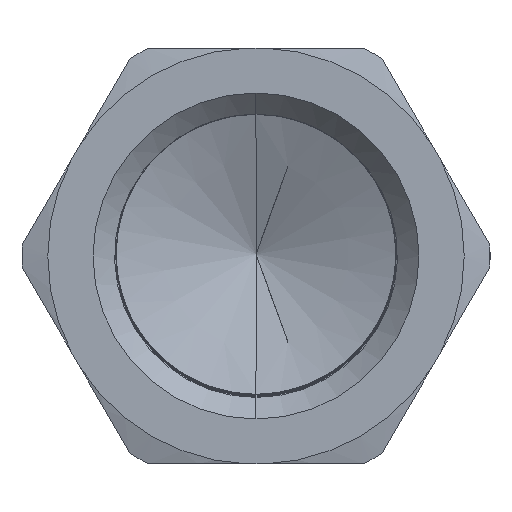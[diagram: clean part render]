
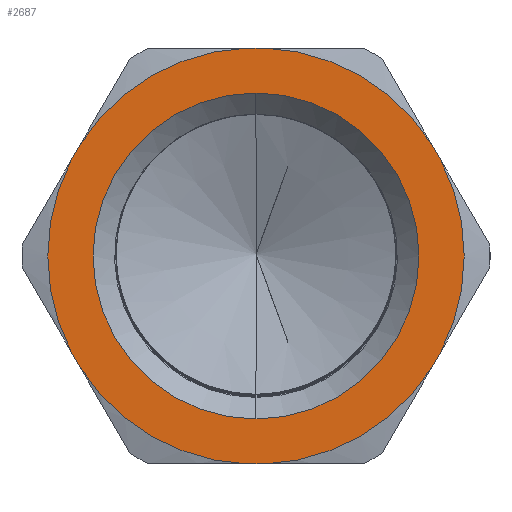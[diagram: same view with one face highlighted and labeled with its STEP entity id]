
A CAD part, left-side view. The second image highlights one B-rep face of the part: STEP entity #2687.
In plain terms, the highlighted planar face has unit normal (-1, 0, 0).
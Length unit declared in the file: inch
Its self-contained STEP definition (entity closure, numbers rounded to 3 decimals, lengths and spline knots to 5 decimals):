
#143 = EDGE_CURVE ( 'NONE', #16580, #16575, #11420, .T. ) ;
#173 = EDGE_CURVE ( 'NONE', #16395, #16539, #11452, .T. ) ;
#180 = EDGE_CURVE ( 'NONE', #16300, #16384, #11575, .T. ) ;
#187 = EDGE_CURVE ( 'NONE', #16386, #16295, #15654, .T. ) ;
#194 = EDGE_CURVE ( 'NONE', #16474, #16278, #15790, .T. ) ;
#265 = EDGE_CURVE ( 'NONE', #16289, #16446, #15623, .T. ) ;
#266 = EDGE_CURVE ( 'NONE', #16474, #16295, #9485, .T. ) ;
#267 = EDGE_CURVE ( 'NONE', #16289, #16278, #9492, .T. ) ;
#268 = EDGE_CURVE ( 'NONE', #16476, #16446, #9495, .T. ) ;
#269 = EDGE_CURVE ( 'NONE', #16476, #16438, #15673, .T. ) ;
#270 = EDGE_CURVE ( 'NONE', #16395, #16438, #9486, .T. ) ;
#271 = EDGE_CURVE ( 'NONE', #16300, #16539, #9504, .T. ) ;
#272 = EDGE_CURVE ( 'NONE', #16386, #16384, #9507, .T. ) ;
#1726 = CARTESIAN_POINT ( 'NONE',  ( 0., -0.02305, 0.531 ) ) ;
#1737 = CARTESIAN_POINT ( 'NONE',  ( 0., 0.02305, 0.531 ) ) ;
#1743 = CARTESIAN_POINT ( 'NONE',  ( 0., -0.47138, 0.24554 ) ) ;
#1748 = CARTESIAN_POINT ( 'NONE',  ( 0., -0.02305, -0.531 ) ) ;
#1832 = CARTESIAN_POINT ( 'NONE',  ( 0., -0.44834, -0.28546 ) ) ;
#1834 = CARTESIAN_POINT ( 'NONE',  ( 0., -0.47138, -0.24554 ) ) ;
#1843 = CARTESIAN_POINT ( 'NONE',  ( 0., 0.44834, -0.28546 ) ) ;
#1886 = CARTESIAN_POINT ( 'NONE',  ( 0., 0.47138, -0.24554 ) ) ;
#1894 = CARTESIAN_POINT ( 'NONE',  ( 0., 0.44834, 0.28546 ) ) ;
#1922 = CARTESIAN_POINT ( 'NONE',  ( 0., -0.44834, 0.28546 ) ) ;
#1924 = CARTESIAN_POINT ( 'NONE',  ( 0., 0.47138, 0.24554 ) ) ;
#1987 = CARTESIAN_POINT ( 'NONE',  ( 0., 0.02305, -0.531 ) ) ;
#2023 = CARTESIAN_POINT ( 'NONE',  ( 0., 0., -0.41613 ) ) ;
#2028 = CARTESIAN_POINT ( 'NONE',  ( 0., 0., 0.41613 ) ) ;
#2149 = ORIENTED_EDGE ( 'NONE', *, *, #194, .T. ) ;
#2154 = ORIENTED_EDGE ( 'NONE', *, *, #143, .F. ) ;
#2157 = ORIENTED_EDGE ( 'NONE', *, *, #265, .T. ) ;
#2159 = ORIENTED_EDGE ( 'NONE', *, *, #180, .T. ) ;
#2162 = ORIENTED_EDGE ( 'NONE', *, *, #270, .F. ) ;
#2164 = ORIENTED_EDGE ( 'NONE', *, *, #272, .F. ) ;
#2167 = ORIENTED_EDGE ( 'NONE', *, *, #187, .T. ) ;
#2168 = ORIENTED_EDGE ( 'NONE', *, *, #4304, .F. ) ;
#2169 = ORIENTED_EDGE ( 'NONE', *, *, #173, .T. ) ;
#2172 = ORIENTED_EDGE ( 'NONE', *, *, #266, .F. ) ;
#2173 = ORIENTED_EDGE ( 'NONE', *, *, #271, .F. ) ;
#2175 = ORIENTED_EDGE ( 'NONE', *, *, #268, .F. ) ;
#2179 = ORIENTED_EDGE ( 'NONE', *, *, #267, .F. ) ;
#2210 = ORIENTED_EDGE ( 'NONE', *, *, #269, .T. ) ;
#2687 = ADVANCED_FACE ( 'NONE', ( #6815, #6816 ), #6817, .F. ) ;
#2957 = AXIS2_PLACEMENT_3D ( 'NONE', #6812, #6819, #6820 ) ;
#4304 = EDGE_CURVE ( 'NONE', #16575, #16580, #11321, .T. ) ;
#6812 = CARTESIAN_POINT ( 'NONE',  ( 0., 0.61315, 0. ) ) ;
#6815 = FACE_OUTER_BOUND ( 'NONE', #13484, .T. ) ;
#6816 = FACE_BOUND ( 'NONE', #13486, .T. ) ;
#6817 = PLANE ( 'NONE',  #2957 ) ;
#6819 = DIRECTION ( 'NONE',  ( 1., 0., 0. ) ) ;
#6820 = DIRECTION ( 'NONE',  ( 0., 0., -1. ) ) ;
#8751 = CARTESIAN_POINT ( 'NONE',  ( 0., 0., 0. ) ) ;
#8752 = DIRECTION ( 'NONE',  ( -1., 0., 0. ) ) ;
#8753 = DIRECTION ( 'NONE',  ( 0., 0., 1. ) ) ;
#9193 = CARTESIAN_POINT ( 'NONE',  ( 0., 0., 0. ) ) ;
#9194 = DIRECTION ( 'NONE',  ( -1., 0., 0. ) ) ;
#9195 = DIRECTION ( 'NONE',  ( 0., 0., -1. ) ) ;
#9221 = CARTESIAN_POINT ( 'NONE',  ( 0., 0., 0. ) ) ;
#9222 = DIRECTION ( 'NONE',  ( -1., 0., 0. ) ) ;
#9224 = DIRECTION ( 'NONE',  ( 0., 0., -1. ) ) ;
#9248 = CARTESIAN_POINT ( 'NONE',  ( 0., 0., 0. ) ) ;
#9249 = DIRECTION ( 'NONE',  ( -1., 0., 0. ) ) ;
#9250 = DIRECTION ( 'NONE',  ( 0., 0., -1. ) ) ;
#9271 = CARTESIAN_POINT ( 'NONE',  ( 0., 0., 0. ) ) ;
#9272 = DIRECTION ( 'NONE',  ( -1., 0., 0. ) ) ;
#9273 = DIRECTION ( 'NONE',  ( 0., 0., -1. ) ) ;
#9482 = CARTESIAN_POINT ( 'NONE',  ( 0., -0.30657, 0.531 ) ) ;
#9485 = LINE ( 'NONE', #9482, #15666 ) ;
#9486 = LINE ( 'NONE', #9487, #15620 ) ;
#9487 = CARTESIAN_POINT ( 'NONE',  ( 0., 0.30657, -0.531 ) ) ;
#9488 = CARTESIAN_POINT ( 'NONE',  ( 0., 0., 0. ) ) ;
#9489 = DIRECTION ( 'NONE',  ( -1., 0., 0. ) ) ;
#9490 = DIRECTION ( 'NONE',  ( 0., 0., -1. ) ) ;
#9491 = DIRECTION ( 'NONE',  ( 0., -0.5, -0.866 ) ) ;
#9492 = LINE ( 'NONE', #9493, #15659 ) ;
#9493 = CARTESIAN_POINT ( 'NONE',  ( 0., 0.30657, 0.531 ) ) ;
#9494 = DIRECTION ( 'NONE',  ( 0., -1., 0. ) ) ;
#9495 = LINE ( 'NONE', #9496, #15651 ) ;
#9496 = CARTESIAN_POINT ( 'NONE',  ( 0., 0.61315, 0. ) ) ;
#9497 = DIRECTION ( 'NONE',  ( 0., -0.5, 0.866 ) ) ;
#9500 = CARTESIAN_POINT ( 'NONE',  ( 0., 0., 0. ) ) ;
#9501 = DIRECTION ( 'NONE',  ( -1., 0., 0. ) ) ;
#9502 = DIRECTION ( 'NONE',  ( 0., 0., -1. ) ) ;
#9503 = DIRECTION ( 'NONE',  ( 0., 0.5, 0.866 ) ) ;
#9504 = LINE ( 'NONE', #9505, #15706 ) ;
#9505 = CARTESIAN_POINT ( 'NONE',  ( 0., -0.30657, -0.531 ) ) ;
#9506 = DIRECTION ( 'NONE',  ( 0., 1., 0. ) ) ;
#9507 = LINE ( 'NONE', #9508, #15663 ) ;
#9508 = CARTESIAN_POINT ( 'NONE',  ( 0., -0.61315, 0. ) ) ;
#9509 = DIRECTION ( 'NONE',  ( 0., 0.5, -0.866 ) ) ;
#10173 = CARTESIAN_POINT ( 'NONE',  ( 0., 0., 0. ) ) ;
#10174 = DIRECTION ( 'NONE',  ( -1., 0., 0. ) ) ;
#10175 = DIRECTION ( 'NONE',  ( 0., 0., 1. ) ) ;
#11321 = CIRCLE ( 'NONE', #11323, 0.41613 ) ;
#11323 = AXIS2_PLACEMENT_3D ( 'NONE', #10173, #10174, #10175 ) ;
#11380 = AXIS2_PLACEMENT_3D ( 'NONE', #8751, #8752, #8753 ) ;
#11420 = CIRCLE ( 'NONE', #11380, 0.41613 ) ;
#11452 = CIRCLE ( 'NONE', #11465, 0.5315 ) ;
#11465 = AXIS2_PLACEMENT_3D ( 'NONE', #9193, #9194, #9195 ) ;
#11541 = AXIS2_PLACEMENT_3D ( 'NONE', #9221, #9222, #9224 ) ;
#11575 = CIRCLE ( 'NONE', #11541, 0.5315 ) ;
#13484 = EDGE_LOOP ( 'NONE', ( #2172, #2149, #2179, #2157, #2175, #2210, #2162, #2169, #2173, #2159, #2164, #2167 ) ) ;
#13486 = EDGE_LOOP ( 'NONE', ( #2154, #2168 ) ) ;
#15620 = VECTOR ( 'NONE', #9503, 39.37008 ) ;
#15623 = CIRCLE ( 'NONE', #15633, 0.5315 ) ;
#15633 = AXIS2_PLACEMENT_3D ( 'NONE', #9488, #9489, #9490 ) ;
#15651 = VECTOR ( 'NONE', #9497, 39.37008 ) ;
#15653 = AXIS2_PLACEMENT_3D ( 'NONE', #9500, #9501, #9502 ) ;
#15654 = CIRCLE ( 'NONE', #15771, 0.5315 ) ;
#15659 = VECTOR ( 'NONE', #9494, 39.37008 ) ;
#15663 = VECTOR ( 'NONE', #9509, 39.37008 ) ;
#15666 = VECTOR ( 'NONE', #9491, 39.37008 ) ;
#15673 = CIRCLE ( 'NONE', #15653, 0.5315 ) ;
#15697 = AXIS2_PLACEMENT_3D ( 'NONE', #9271, #9272, #9273 ) ;
#15706 = VECTOR ( 'NONE', #9506, 39.37008 ) ;
#15771 = AXIS2_PLACEMENT_3D ( 'NONE', #9248, #9249, #9250 ) ;
#15790 = CIRCLE ( 'NONE', #15697, 0.5315 ) ;
#16278 = VERTEX_POINT ( 'NONE', #1726 ) ;
#16289 = VERTEX_POINT ( 'NONE', #1737 ) ;
#16295 = VERTEX_POINT ( 'NONE', #1743 ) ;
#16300 = VERTEX_POINT ( 'NONE', #1748 ) ;
#16384 = VERTEX_POINT ( 'NONE', #1832 ) ;
#16386 = VERTEX_POINT ( 'NONE', #1834 ) ;
#16395 = VERTEX_POINT ( 'NONE', #1843 ) ;
#16438 = VERTEX_POINT ( 'NONE', #1886 ) ;
#16446 = VERTEX_POINT ( 'NONE', #1894 ) ;
#16474 = VERTEX_POINT ( 'NONE', #1922 ) ;
#16476 = VERTEX_POINT ( 'NONE', #1924 ) ;
#16539 = VERTEX_POINT ( 'NONE', #1987 ) ;
#16575 = VERTEX_POINT ( 'NONE', #2023 ) ;
#16580 = VERTEX_POINT ( 'NONE', #2028 ) ;
